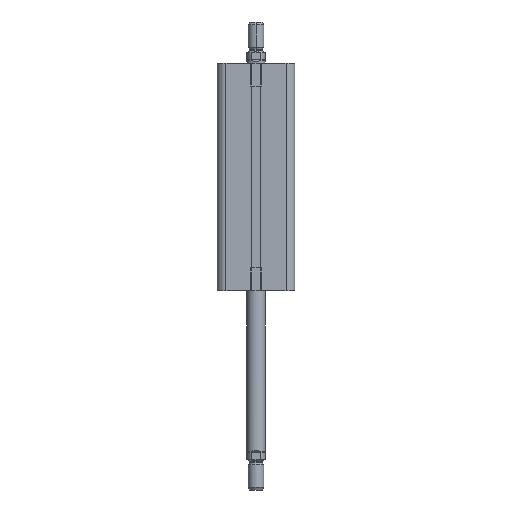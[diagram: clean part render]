
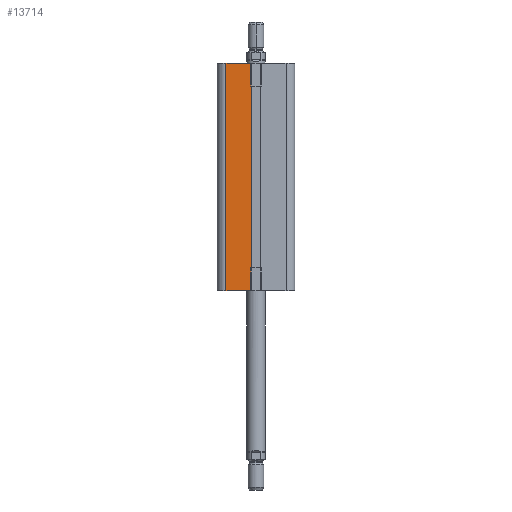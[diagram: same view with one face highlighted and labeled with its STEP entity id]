
A CAD part, front view. The second image highlights one B-rep face of the part: STEP entity #13714.
In plain terms, the highlighted planar face has unit normal (0, -1, 0).
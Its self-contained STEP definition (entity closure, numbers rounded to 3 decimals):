
#1532 = CARTESIAN_POINT ( 'NONE',  ( -19., -24.5, 129.5 ) ) ;
#1533 = CARTESIAN_POINT ( 'NONE',  ( -3.2, -24.5, 129.5 ) ) ;
#1636 = CARTESIAN_POINT ( 'NONE',  ( -3.2, -24.5, -14.5 ) ) ;
#1637 = CARTESIAN_POINT ( 'NONE',  ( -19., -24.5, -14.5 ) ) ;
#1900 = CARTESIAN_POINT ( 'NONE',  ( -24.5, -24.5, 129.5 ) ) ;
#1901 = DIRECTION ( 'NONE',  ( 1., 0., 0. ) ) ;
#2281 = CARTESIAN_POINT ( 'NONE',  ( -2.95, -24.5, 115. ) ) ;
#2282 = DIRECTION ( 'NONE',  ( 0., 0., 1. ) ) ;
#2299 = CARTESIAN_POINT ( 'NONE',  ( -24.5, -24.5, 115. ) ) ;
#2300 = DIRECTION ( 'NONE',  ( 1., 0., 0. ) ) ;
#2386 = CARTESIAN_POINT ( 'NONE',  ( -24.5, -24.5, 0. ) ) ;
#2387 = DIRECTION ( 'NONE',  ( 1., 0., 0. ) ) ;
#2654 = CARTESIAN_POINT ( 'NONE',  ( -2.95, -24.5, 115. ) ) ;
#2655 = CARTESIAN_POINT ( 'NONE',  ( -2.95, -24.5, 0. ) ) ;
#2662 = CARTESIAN_POINT ( 'NONE',  ( -3.2, -24.5, 115. ) ) ;
#2663 = CARTESIAN_POINT ( 'NONE',  ( -3.2, -24.5, 0. ) ) ;
#2873 = CARTESIAN_POINT ( 'NONE',  ( -3.2, -24.5, 184.996 ) ) ;
#2878 = DIRECTION ( 'NONE',  ( 0., 0., -1. ) ) ;
#3003 = CARTESIAN_POINT ( 'NONE',  ( -3.2, -24.5, 184.996 ) ) ;
#3009 = CARTESIAN_POINT ( 'NONE',  ( -19., -24.5, 115. ) ) ;
#3011 = DIRECTION ( 'NONE',  ( 0., 0., -1. ) ) ;
#3012 = DIRECTION ( 'NONE',  ( 0., 0., -1. ) ) ;
#3505 = LINE ( 'NONE', #1900, #3507 ) ;
#3507 = VECTOR ( 'NONE', #1901, 1000. ) ;
#3728 = LINE ( 'NONE', #2281, #3730 ) ;
#3730 = VECTOR ( 'NONE', #2282, 1000. ) ;
#3738 = LINE ( 'NONE', #2299, #3740 ) ;
#3740 = VECTOR ( 'NONE', #2300, 1000. ) ;
#3784 = LINE ( 'NONE', #2386, #5778 ) ;
#5120 = ORIENTED_EDGE ( 'NONE', *, *, #9545, .T. ) ;
#5121 = ORIENTED_EDGE ( 'NONE', *, *, #11519, .F. ) ;
#5130 = ORIENTED_EDGE ( 'NONE', *, *, #10326, .F. ) ;
#5133 = ORIENTED_EDGE ( 'NONE', *, *, #9546, .F. ) ;
#5134 = ORIENTED_EDGE ( 'NONE', *, *, #10515, .T. ) ;
#5138 = ORIENTED_EDGE ( 'NONE', *, *, #10477, .T. ) ;
#5139 = ORIENTED_EDGE ( 'NONE', *, *, #10484, .F. ) ;
#5182 = ORIENTED_EDGE ( 'NONE', *, *, #9479, .F. ) ;
#5638 = LINE ( 'NONE', #2873, #5643 ) ;
#5643 = VECTOR ( 'NONE', #2878, 1000. ) ;
#5768 = LINE ( 'NONE', #3003, #5777 ) ;
#5772 = LINE ( 'NONE', #3009, #5775 ) ;
#5775 = VECTOR ( 'NONE', #3011, 1000. ) ;
#5777 = VECTOR ( 'NONE', #3012, 1000. ) ;
#5778 = VECTOR ( 'NONE', #2387, 1000. ) ;
#6669 = FACE_OUTER_BOUND ( 'NONE', #9398, .T. ) ;
#7442 = AXIS2_PLACEMENT_3D ( 'NONE', #7773, #7781, #7782 ) ;
#7773 = CARTESIAN_POINT ( 'NONE',  ( -24.5, -24.5, 115. ) ) ;
#7778 = PLANE ( 'NONE',  #7442 ) ;
#7781 = DIRECTION ( 'NONE',  ( 0., 1., 0. ) ) ;
#7782 = DIRECTION ( 'NONE',  ( 0., 0., 1. ) ) ;
#9073 = VERTEX_POINT ( 'NONE', #2654 ) ;
#9074 = VERTEX_POINT ( 'NONE', #2655 ) ;
#9081 = VERTEX_POINT ( 'NONE', #2662 ) ;
#9082 = VERTEX_POINT ( 'NONE', #2663 ) ;
#9398 = EDGE_LOOP ( 'NONE', ( #5120, #5121, #5133, #5134, #5138, #5139, #5182, #5130 ) ) ;
#9479 = EDGE_CURVE ( 'NONE', #9887, #9081, #5638, .T. ) ;
#9545 = EDGE_CURVE ( 'NONE', #9886, #9991, #5772, .T. ) ;
#9546 = EDGE_CURVE ( 'NONE', #9082, #9990, #5768, .T. ) ;
#9886 = VERTEX_POINT ( 'NONE', #1532 ) ;
#9887 = VERTEX_POINT ( 'NONE', #1533 ) ;
#9990 = VERTEX_POINT ( 'NONE', #1636 ) ;
#9991 = VERTEX_POINT ( 'NONE', #1637 ) ;
#10326 = EDGE_CURVE ( 'NONE', #9886, #9887, #3505, .T. ) ;
#10477 = EDGE_CURVE ( 'NONE', #9074, #9073, #3728, .T. ) ;
#10484 = EDGE_CURVE ( 'NONE', #9081, #9073, #3738, .T. ) ;
#10515 = EDGE_CURVE ( 'NONE', #9082, #9074, #3784, .T. ) ;
#11519 = EDGE_CURVE ( 'NONE', #9990, #9991, #12441, .T. ) ;
#12441 = LINE ( 'NONE', #13318, #12443 ) ;
#12443 = VECTOR ( 'NONE', #13319, 1000. ) ;
#13318 = CARTESIAN_POINT ( 'NONE',  ( -3., -24.5, -14.5 ) ) ;
#13319 = DIRECTION ( 'NONE',  ( -1., 0., 0. ) ) ;
#13714 = ADVANCED_FACE ( 'NONE', ( #6669 ), #7778, .F. ) ;
